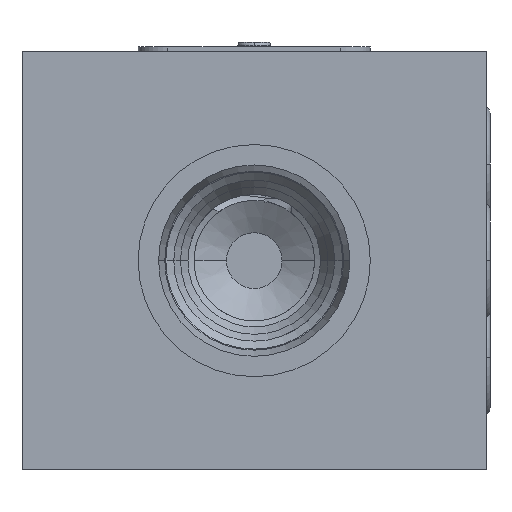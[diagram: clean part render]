
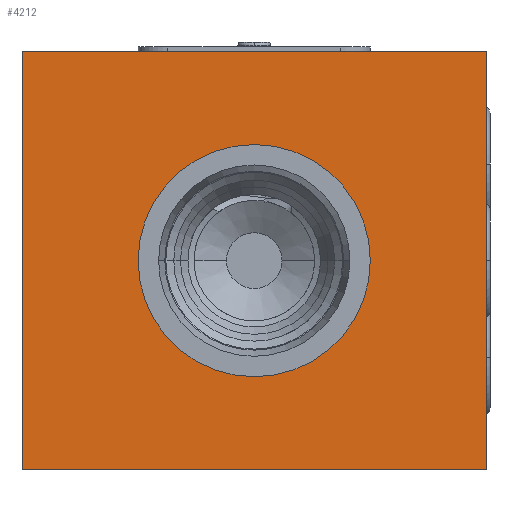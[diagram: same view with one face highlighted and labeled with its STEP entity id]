
A CAD part, left-side view. The second image highlights one B-rep face of the part: STEP entity #4212.
In plain terms, the highlighted planar face has unit normal (-1, 0, 0).
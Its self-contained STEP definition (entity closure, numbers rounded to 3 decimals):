
#56=DIRECTION('',(0.,0.,-1.));
#57=VECTOR('',#56,45.);
#58=CARTESIAN_POINT('',(0.,0.,0.));
#59=LINE('',#58,#57);
#63=DIRECTION('',(0.,1.,0.));
#64=VECTOR('',#63,50.);
#65=CARTESIAN_POINT('',(0.,0.,-45.));
#66=LINE('',#65,#64);
#70=DIRECTION('',(0.,0.,1.));
#71=VECTOR('',#70,45.);
#72=CARTESIAN_POINT('',(0.,50.,-45.));
#73=LINE('',#72,#71);
#77=DIRECTION('',(0.,-1.,0.));
#78=VECTOR('',#77,50.);
#79=CARTESIAN_POINT('',(0.,50.,0.));
#80=LINE('',#79,#78);
#84=CARTESIAN_POINT('',(0.,25.,-22.5));
#85=DIRECTION('',(1.,0.,0.));
#86=DIRECTION('',(0.,-1.,0.));
#87=AXIS2_PLACEMENT_3D('',#84,#85,#86);
#92=CARTESIAN_POINT('',(0.,25.,-22.5));
#93=DIRECTION('',(1.,0.,0.));
#94=DIRECTION('',(0.,1.,0.));
#95=AXIS2_PLACEMENT_3D('',#92,#93,#94);
#3835=CARTESIAN_POINT('',(0.,0.,0.));
#3836=CARTESIAN_POINT('',(0.,0.,-45.));
#3837=VERTEX_POINT('',#3835);
#3838=VERTEX_POINT('',#3836);
#3839=CARTESIAN_POINT('',(0.,50.,-45.));
#3840=VERTEX_POINT('',#3839);
#3841=CARTESIAN_POINT('',(0.,50.,0.));
#3842=VERTEX_POINT('',#3841);
#3997=CARTESIAN_POINT('',(0.,12.5,-22.5));
#3998=VERTEX_POINT('',#3997);
#3999=CARTESIAN_POINT('',(0.,37.5,-22.5));
#4000=VERTEX_POINT('',#3999);
#4191=CARTESIAN_POINT('',(0.,0.,0.));
#4192=DIRECTION('',(1.,0.,0.));
#4193=DIRECTION('',(0.,0.,-1.));
#4194=AXIS2_PLACEMENT_3D('',#4191,#4192,#4193);
#4195=PLANE('',#4194);
#4197=ORIENTED_EDGE('',*,*,#4196,.T.);
#4199=ORIENTED_EDGE('',*,*,#4198,.T.);
#4201=ORIENTED_EDGE('',*,*,#4200,.T.);
#4203=ORIENTED_EDGE('',*,*,#4202,.T.);
#4204=EDGE_LOOP('',(#4197,#4199,#4201,#4203));
#4205=FACE_OUTER_BOUND('',#4204,.F.);
#4207=ORIENTED_EDGE('',*,*,#4206,.F.);
#4209=ORIENTED_EDGE('',*,*,#4208,.F.);
#4210=EDGE_LOOP('',(#4207,#4209));
#4211=FACE_BOUND('',#4210,.F.);
#88=CIRCLE('',#87,12.5);
#96=CIRCLE('',#95,12.5);
#4196=EDGE_CURVE('',#3837,#3838,#59,.T.);
#4198=EDGE_CURVE('',#3838,#3840,#66,.T.);
#4200=EDGE_CURVE('',#3840,#3842,#73,.T.);
#4202=EDGE_CURVE('',#3842,#3837,#80,.T.);
#4206=EDGE_CURVE('',#3998,#4000,#88,.T.);
#4208=EDGE_CURVE('',#4000,#3998,#96,.T.);
#4212=ADVANCED_FACE('',(#4205,#4211),#4195,.F.);
